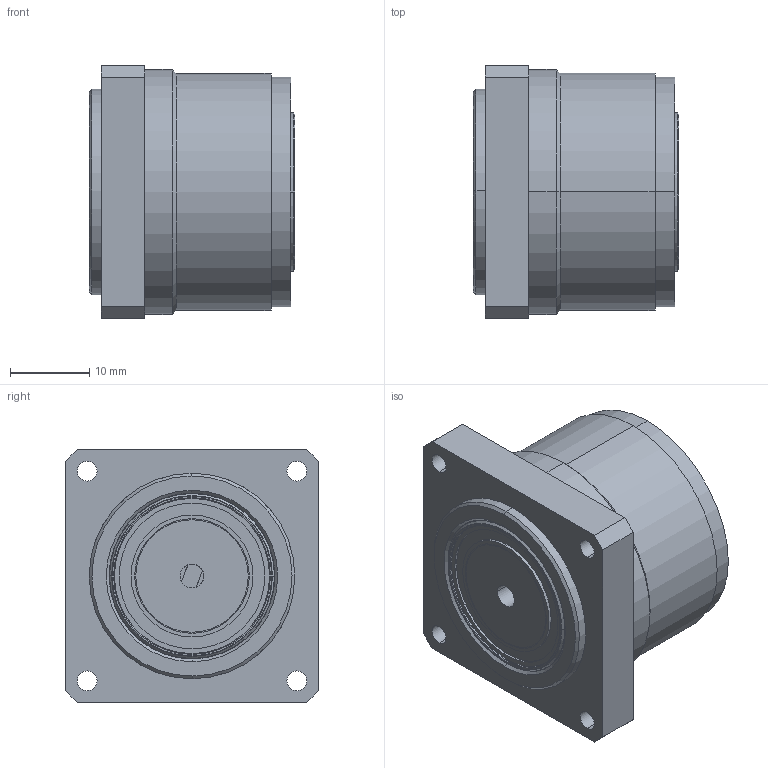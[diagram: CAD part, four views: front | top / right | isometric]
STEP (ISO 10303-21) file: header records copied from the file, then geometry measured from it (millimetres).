
FILE_DESCRIPTION (( 'STEP AP214' ), '1' );
FILE_NAME ('CSF-08-xxx-2HX-F.STEP', '2022-05-09T06:30:43', ( 'PC' ), ( 'Microsoft' ), 'SwSTEP 2.0', 'SolidWorks 2016', '' );
FILE_SCHEMA (( 'AUTOMOTIVE_DESIGN' ));
Length unit declared in the file: millimetre
Products named in the file (12): CSF-08蝠脫粣創_蕼偞; CSF-08-交叉轴承内圈; CSF-08-交叉轴承外圈; CSF-08-2HX-J-01_蕼偞; CSF-08-xxx-2HX-F; CSF-08-2HX-J-疏楷汜ん.SLCASM_蕼偞; 柔性轴承19.63x14.22x3.3x3.1.SLCPRT_預設; CSF-08-2HX-J-05.SLCPRT_蕼偞; CSF-08-1U-D-06_蕼偞; CSF-08-2HX-J-03_蕼偞; CSF-08-2HX-J-02_蕼偞; 躇猾蚐猾20x26x4_蕼偞
Assembly tree (11 placements, depth 3):
  CSF-08-xxx-2HX-F
    CSF-08-2HX-J-01_蕼偞
    CSF-08蝠脫粣創_蕼偞
      CSF-08-交叉轴承外圈
      CSF-08-交叉轴承内圈
    躇猾蚐猾20x26x4_蕼偞
    CSF-08-2HX-J-02_蕼偞
    CSF-08-2HX-J-03_蕼偞
    CSF-08-1U-D-06_蕼偞
    CSF-08-2HX-J-疏楷汜ん.SLCASM_蕼偞
      CSF-08-2HX-J-05.SLCPRT_蕼偞
      柔性轴承19.63x14.22x3.3x3.1.SLCPRT_預設
Bounding box: 26 x 32 x 32 mm (x, y, z)
Volume: 17248.4 mm3; surface area: 15979.5 mm2
Topology: 9 solids, 9 shells, 246 faces, 564 edges, 348 vertices
Faces by surface type: cylinder 112, cone 56, plane 56, torus 22
Entity records: 8046 total; most frequent: CARTESIAN_POINT 1398, DIRECTION 1380, ORIENTED_EDGE 1120, AXIS2_PLACEMENT_3D 580, EDGE_CURVE 560, VERTEX_POINT 348, CIRCLE 318, EDGE_LOOP 306
